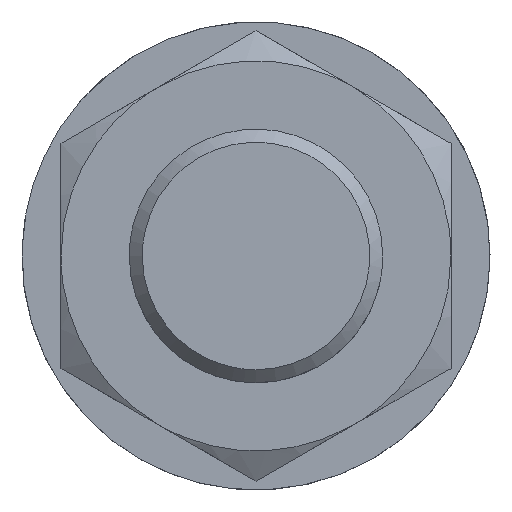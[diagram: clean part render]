
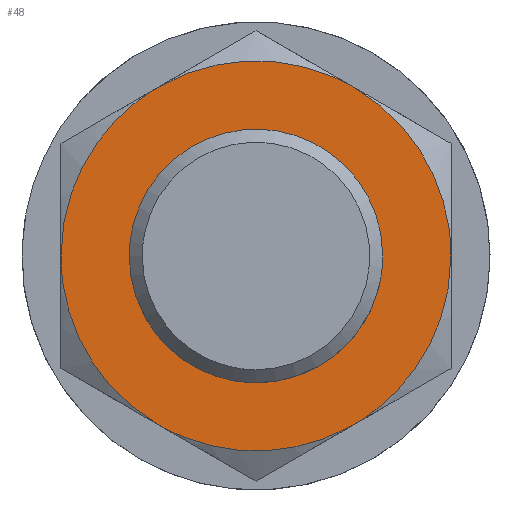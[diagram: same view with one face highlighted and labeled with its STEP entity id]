
A CAD part, left-side view. The second image highlights one B-rep face of the part: STEP entity #48.
In plain terms, the highlighted planar face has unit normal (-1, 0, 0).
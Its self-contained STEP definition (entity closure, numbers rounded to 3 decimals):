
#39=FACE_BOUND('',#135,.T.);
#48=ADVANCED_FACE('',(#90,#39),#655,.T.);
#90=FACE_OUTER_BOUND('',#134,.T.);
#134=EDGE_LOOP('',(#198,#199,#200,#201,#202,#203));
#135=EDGE_LOOP('',(#204,#205));
#198=ORIENTED_EDGE('',*,*,#399,.F.);
#199=ORIENTED_EDGE('',*,*,#401,.F.);
#200=ORIENTED_EDGE('',*,*,#402,.F.);
#201=ORIENTED_EDGE('',*,*,#400,.F.);
#202=ORIENTED_EDGE('',*,*,#398,.F.);
#203=ORIENTED_EDGE('',*,*,#397,.F.);
#204=ORIENTED_EDGE('',*,*,#387,.F.);
#205=ORIENTED_EDGE('',*,*,#385,.F.);
#385=EDGE_CURVE('',#600,#590,#510,.T.);
#387=EDGE_CURVE('',#590,#600,#511,.T.);
#397=EDGE_CURVE('',#594,#595,#519,.T.);
#398=EDGE_CURVE('',#595,#599,#520,.T.);
#399=EDGE_CURVE('',#596,#594,#521,.T.);
#400=EDGE_CURVE('',#599,#598,#522,.T.);
#401=EDGE_CURVE('',#597,#596,#523,.T.);
#402=EDGE_CURVE('',#598,#597,#524,.T.);
#510=(
BOUNDED_CURVE()
B_SPLINE_CURVE(2,(#1158,#1159,#1160,#1161,#1162),.UNSPECIFIED.,.F.,.F.)
B_SPLINE_CURVE_WITH_KNOTS((3,2,3),(61.261,91.892,122.522),
 .UNSPECIFIED.)
CURVE()
GEOMETRIC_REPRESENTATION_ITEM()
RATIONAL_B_SPLINE_CURVE((1.,0.707,1.,0.707,1.))
REPRESENTATION_ITEM('')
);
#511=(
BOUNDED_CURVE()
B_SPLINE_CURVE(2,(#1165,#1166,#1167,#1168,#1169),.UNSPECIFIED.,.F.,.F.)
B_SPLINE_CURVE_WITH_KNOTS((3,2,3),(0.,30.631,61.261),
 .UNSPECIFIED.)
CURVE()
GEOMETRIC_REPRESENTATION_ITEM()
RATIONAL_B_SPLINE_CURVE((1.,0.707,1.,0.707,1.))
REPRESENTATION_ITEM('')
);
#519=(
BOUNDED_CURVE()
B_SPLINE_CURVE(2,(#1207,#1208,#1209),.UNSPECIFIED.,.F.,.F.)
B_SPLINE_CURVE_WITH_KNOTS((3,3),(0.,31.416),.UNSPECIFIED.)
CURVE()
GEOMETRIC_REPRESENTATION_ITEM()
RATIONAL_B_SPLINE_CURVE((1.,0.866,1.))
REPRESENTATION_ITEM('')
);
#520=(
BOUNDED_CURVE()
B_SPLINE_CURVE(2,(#1210,#1211,#1212),.UNSPECIFIED.,.F.,.F.)
B_SPLINE_CURVE_WITH_KNOTS((3,3),(0.,31.416),.UNSPECIFIED.)
CURVE()
GEOMETRIC_REPRESENTATION_ITEM()
RATIONAL_B_SPLINE_CURVE((1.,0.866,1.))
REPRESENTATION_ITEM('')
);
#521=(
BOUNDED_CURVE()
B_SPLINE_CURVE(2,(#1213,#1214,#1215),.UNSPECIFIED.,.F.,.F.)
B_SPLINE_CURVE_WITH_KNOTS((3,3),(0.,31.416),.UNSPECIFIED.)
CURVE()
GEOMETRIC_REPRESENTATION_ITEM()
RATIONAL_B_SPLINE_CURVE((1.,0.866,1.))
REPRESENTATION_ITEM('')
);
#522=(
BOUNDED_CURVE()
B_SPLINE_CURVE(2,(#1216,#1217,#1218),.UNSPECIFIED.,.F.,.F.)
B_SPLINE_CURVE_WITH_KNOTS((3,3),(0.,31.416),.UNSPECIFIED.)
CURVE()
GEOMETRIC_REPRESENTATION_ITEM()
RATIONAL_B_SPLINE_CURVE((1.,0.866,1.))
REPRESENTATION_ITEM('')
);
#523=(
BOUNDED_CURVE()
B_SPLINE_CURVE(2,(#1219,#1220,#1221),.UNSPECIFIED.,.F.,.F.)
B_SPLINE_CURVE_WITH_KNOTS((3,3),(0.,31.416),.UNSPECIFIED.)
CURVE()
GEOMETRIC_REPRESENTATION_ITEM()
RATIONAL_B_SPLINE_CURVE((1.,0.866,1.))
REPRESENTATION_ITEM('')
);
#524=(
BOUNDED_CURVE()
B_SPLINE_CURVE(2,(#1222,#1223,#1224),.UNSPECIFIED.,.F.,.F.)
B_SPLINE_CURVE_WITH_KNOTS((3,3),(0.,31.416),.UNSPECIFIED.)
CURVE()
GEOMETRIC_REPRESENTATION_ITEM()
RATIONAL_B_SPLINE_CURVE((1.,0.866,1.))
REPRESENTATION_ITEM('')
);
#590=VERTEX_POINT('',#1126);
#594=VERTEX_POINT('',#1130);
#595=VERTEX_POINT('',#1131);
#596=VERTEX_POINT('',#1132);
#597=VERTEX_POINT('',#1133);
#598=VERTEX_POINT('',#1134);
#599=VERTEX_POINT('',#1135);
#600=VERTEX_POINT('',#1136);
#655=PLANE('',#769);
#769=AXIS2_PLACEMENT_3D('',#883,#795,$);
#795=DIRECTION('',(-1.,0.,0.));
#883=CARTESIAN_POINT('',(55.667,-36.12,-41.689));
#1126=CARTESIAN_POINT('',(55.667,19.5,0.));
#1130=CARTESIAN_POINT('',(55.667,-15.,-25.981));
#1131=CARTESIAN_POINT('',(55.667,15.,-25.981));
#1132=CARTESIAN_POINT('',(55.667,-30.,0.));
#1133=CARTESIAN_POINT('',(55.667,-15.,25.981));
#1134=CARTESIAN_POINT('',(55.667,15.,25.981));
#1135=CARTESIAN_POINT('',(55.667,30.,0.));
#1136=CARTESIAN_POINT('',(55.667,-19.5,0.));
#1158=CARTESIAN_POINT('',(55.667,-19.5,0.));
#1159=CARTESIAN_POINT('',(55.667,-19.5,19.5));
#1160=CARTESIAN_POINT('',(55.667,0.,19.5));
#1161=CARTESIAN_POINT('',(55.667,19.5,19.5));
#1162=CARTESIAN_POINT('',(55.667,19.5,0.));
#1165=CARTESIAN_POINT('',(55.667,19.5,0.));
#1166=CARTESIAN_POINT('',(55.667,19.5,-19.5));
#1167=CARTESIAN_POINT('',(55.667,0.,-19.5));
#1168=CARTESIAN_POINT('',(55.667,-19.5,-19.5));
#1169=CARTESIAN_POINT('',(55.667,-19.5,0.));
#1207=CARTESIAN_POINT('',(55.667,-15.,-25.981));
#1208=CARTESIAN_POINT('',(55.667,0.,-34.641));
#1209=CARTESIAN_POINT('',(55.667,15.,-25.981));
#1210=CARTESIAN_POINT('',(55.667,15.,-25.981));
#1211=CARTESIAN_POINT('',(55.667,30.,-17.321));
#1212=CARTESIAN_POINT('',(55.667,30.,0.));
#1213=CARTESIAN_POINT('',(55.667,-30.,0.));
#1214=CARTESIAN_POINT('',(55.667,-30.,-17.321));
#1215=CARTESIAN_POINT('',(55.667,-15.,-25.981));
#1216=CARTESIAN_POINT('',(55.667,30.,0.));
#1217=CARTESIAN_POINT('',(55.667,30.,17.321));
#1218=CARTESIAN_POINT('',(55.667,15.,25.981));
#1219=CARTESIAN_POINT('',(55.667,-15.,25.981));
#1220=CARTESIAN_POINT('',(55.667,-30.,17.321));
#1221=CARTESIAN_POINT('',(55.667,-30.,0.));
#1222=CARTESIAN_POINT('',(55.667,15.,25.981));
#1223=CARTESIAN_POINT('',(55.667,0.,34.641));
#1224=CARTESIAN_POINT('',(55.667,-15.,25.981));
